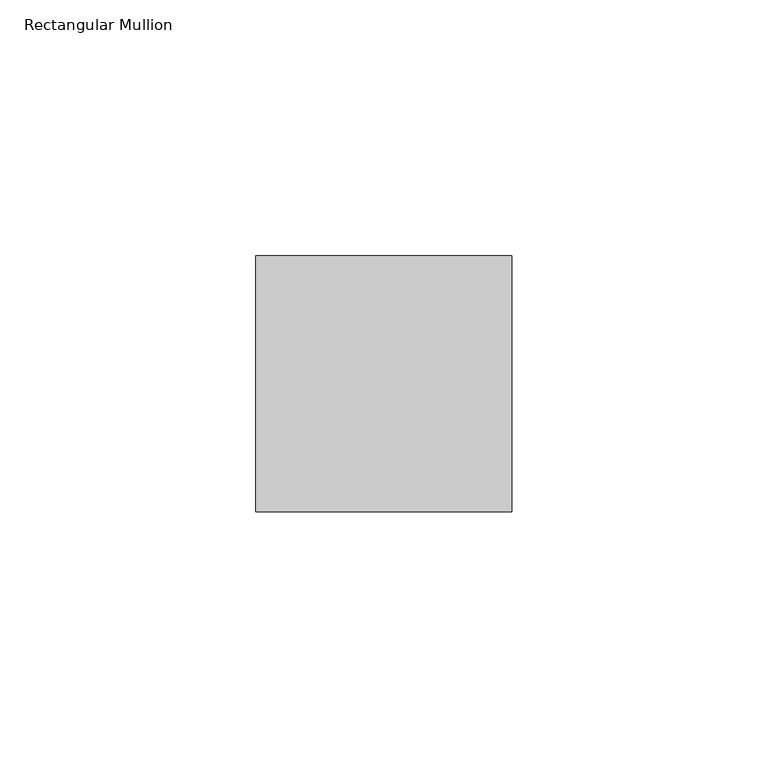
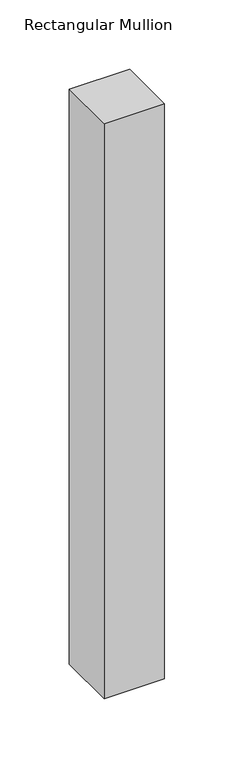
"""IFC4 building model written with IfcOpenShell, lengths in millimetres: member geometry, Rectangular Mullion : RSen_21_CWM_support profile 50x50_gen_duco projects."""

from ifc_helpers import new_model, si_unit, frame, origin, place, context, project, spatial, polyline, outline, extrude, source, transform, mapped, element, save


def rectangular_mullion_058744f8(model_context):
    return source(origin(), model_context, "Body", "SweptSolid", [
        extrude(outline(polyline([(25.0, 1.0), (25.0, -49.0), (-25.0, -49.0), (-25.0, 1.0), (25.0, 1.0)])), frame((0.0, 0.0, -505.0), z_axis=(0.0, 0.0, 1.0), x_axis=(1.0, 0.0, 0.0)), (0.0, 0.0, 1.0), 505.0),
    ])


if __name__ == "__main__":
    model = new_model("IFC4")
    model_context = context("Model", 3, world=origin())
    ifc_project = project(units=[si_unit("LENGTHUNIT", "METRE", prefix="MILLI")], contexts=[model_context])
    site = spatial("IfcSite", under=ifc_project)
    building = spatial("IfcBuilding", under=site)
    placement = place(None, origin())
    rectangular_mullion_shape = rectangular_mullion_058744f8(model_context)
    element("IfcMember", 1, ObjectType="Rectangular Mullion : RSen_21_CWM_support profile 50x50_gen_duco projects", at=placement, inside=building, context=model_context, shape_type="MappedRepresentation", body=[
        mapped(rectangular_mullion_shape, transform((0.0, 0.0, 0.0), x_axis=(1.0, 0.0, 0.0), y_axis=(0.0, 1.0, 0.0), z_axis=(0.0, 0.0, 1.0))),
    ])
    save(model, "model.ifc")
